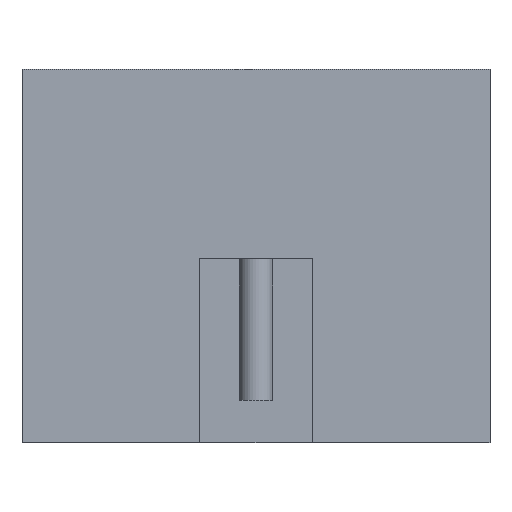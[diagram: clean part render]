
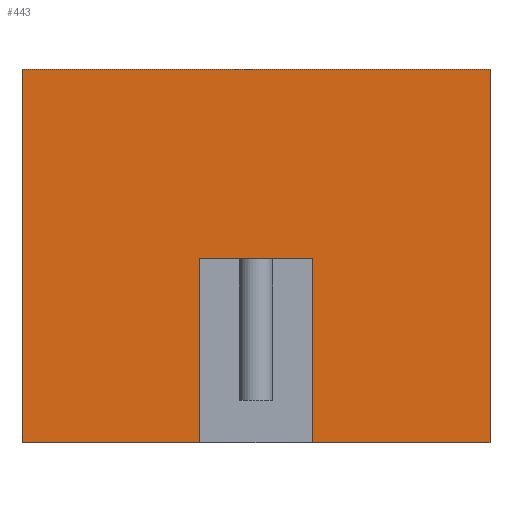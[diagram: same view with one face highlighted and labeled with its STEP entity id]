
A CAD part, top view. The second image highlights one B-rep face of the part: STEP entity #443.
In plain terms, the highlighted planar face has unit normal (0, 0, 1).
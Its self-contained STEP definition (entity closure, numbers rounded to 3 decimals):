
#54 = VERTEX_POINT('',#55);
#55 = CARTESIAN_POINT('',(-2.45,-6.6,4.9));
#62 = PLANE('',#63);
#63 = AXIS2_PLACEMENT_3D('',#64,#65,#66);
#64 = CARTESIAN_POINT('',(-2.45,-6.6,0.));
#65 = DIRECTION('',(1.,0.,0.));
#66 = DIRECTION('',(0.,0.,1.));
#74 = PLANE('',#75);
#75 = AXIS2_PLACEMENT_3D('',#76,#77,#78);
#76 = CARTESIAN_POINT('',(-2.45,-6.6,0.));
#77 = DIRECTION('',(0.,1.,0.));
#78 = DIRECTION('',(0.,0.,1.));
#115 = VERTEX_POINT('',#116);
#116 = CARTESIAN_POINT('',(-2.45,1.3,4.9));
#130 = PLANE('',#131);
#131 = AXIS2_PLACEMENT_3D('',#132,#133,#134);
#132 = CARTESIAN_POINT('',(-2.45,1.3,0.));
#133 = DIRECTION('',(0.,1.,0.));
#134 = DIRECTION('',(0.,0.,1.));
#142 = EDGE_CURVE('',#54,#115,#143,.T.);
#143 = SURFACE_CURVE('',#144,(#148,#155),.PCURVE_S1.);
#144 = LINE('',#145,#146);
#145 = CARTESIAN_POINT('',(-2.45,-6.6,4.9));
#146 = VECTOR('',#147,1.);
#147 = DIRECTION('',(0.,1.,0.));
#148 = PCURVE('',#62,#149);
#149 = DEFINITIONAL_REPRESENTATION('',(#150),#154);
#150 = LINE('',#151,#152);
#151 = CARTESIAN_POINT('',(4.9,0.));
#152 = VECTOR('',#153,1.);
#153 = DIRECTION('',(0.,-1.));
#154 = ( GEOMETRIC_REPRESENTATION_CONTEXT(2) 
PARAMETRIC_REPRESENTATION_CONTEXT() REPRESENTATION_CONTEXT('2D SPACE',''
  ) );
#155 = PCURVE('',#156,#161);
#156 = PLANE('',#157);
#157 = AXIS2_PLACEMENT_3D('',#158,#159,#160);
#158 = CARTESIAN_POINT('',(-2.45,-6.6,4.9));
#159 = DIRECTION('',(0.,0.,1.));
#160 = DIRECTION('',(1.,0.,0.));
#161 = DEFINITIONAL_REPRESENTATION('',(#162),#166);
#162 = LINE('',#163,#164);
#163 = CARTESIAN_POINT('',(0.,0.));
#164 = VECTOR('',#165,1.);
#165 = DIRECTION('',(0.,1.));
#166 = ( GEOMETRIC_REPRESENTATION_CONTEXT(2) 
PARAMETRIC_REPRESENTATION_CONTEXT() REPRESENTATION_CONTEXT('2D SPACE',''
  ) );
#174 = VERTEX_POINT('',#175);
#175 = CARTESIAN_POINT('',(7.45,-6.6,4.9));
#189 = PLANE('',#190);
#190 = AXIS2_PLACEMENT_3D('',#191,#192,#193);
#191 = CARTESIAN_POINT('',(7.45,-6.6,0.));
#192 = DIRECTION('',(1.,0.,0.));
#193 = DIRECTION('',(0.,0.,1.));
#223 = EDGE_CURVE('',#54,#224,#226,.T.);
#224 = VERTEX_POINT('',#225);
#225 = CARTESIAN_POINT('',(1.3,-6.6,4.9));
#226 = SURFACE_CURVE('',#227,(#231,#238),.PCURVE_S1.);
#227 = LINE('',#228,#229);
#228 = CARTESIAN_POINT('',(-2.45,-6.6,4.9));
#229 = VECTOR('',#230,1.);
#230 = DIRECTION('',(1.,0.,0.));
#231 = PCURVE('',#74,#232);
#232 = DEFINITIONAL_REPRESENTATION('',(#233),#237);
#233 = LINE('',#234,#235);
#234 = CARTESIAN_POINT('',(4.9,0.));
#235 = VECTOR('',#236,1.);
#236 = DIRECTION('',(0.,1.));
#237 = ( GEOMETRIC_REPRESENTATION_CONTEXT(2) 
PARAMETRIC_REPRESENTATION_CONTEXT() REPRESENTATION_CONTEXT('2D SPACE',''
  ) );
#238 = PCURVE('',#156,#239);
#239 = DEFINITIONAL_REPRESENTATION('',(#240),#244);
#240 = LINE('',#241,#242);
#241 = CARTESIAN_POINT('',(0.,0.));
#242 = VECTOR('',#243,1.);
#243 = DIRECTION('',(1.,0.));
#244 = ( GEOMETRIC_REPRESENTATION_CONTEXT(2) 
PARAMETRIC_REPRESENTATION_CONTEXT() REPRESENTATION_CONTEXT('2D SPACE',''
  ) );
#261 = PLANE('',#262);
#262 = AXIS2_PLACEMENT_3D('',#263,#264,#265);
#263 = CARTESIAN_POINT('',(1.3,-6.9,4.25));
#264 = DIRECTION('',(1.,0.,0.));
#265 = DIRECTION('',(0.,0.,1.));
#398 = VERTEX_POINT('',#399);
#399 = CARTESIAN_POINT('',(3.7,-6.6,4.9));
#412 = PLANE('',#413);
#413 = AXIS2_PLACEMENT_3D('',#414,#415,#416);
#414 = CARTESIAN_POINT('',(3.7,-6.9,4.25));
#415 = DIRECTION('',(1.,0.,0.));
#416 = DIRECTION('',(0.,0.,1.));
#423 = EDGE_CURVE('',#398,#174,#424,.T.);
#424 = SURFACE_CURVE('',#425,(#429,#436),.PCURVE_S1.);
#425 = LINE('',#426,#427);
#426 = CARTESIAN_POINT('',(-2.45,-6.6,4.9));
#427 = VECTOR('',#428,1.);
#428 = DIRECTION('',(1.,0.,0.));
#429 = PCURVE('',#74,#430);
#430 = DEFINITIONAL_REPRESENTATION('',(#431),#435);
#431 = LINE('',#432,#433);
#432 = CARTESIAN_POINT('',(4.9,0.));
#433 = VECTOR('',#434,1.);
#434 = DIRECTION('',(0.,1.));
#435 = ( GEOMETRIC_REPRESENTATION_CONTEXT(2) 
PARAMETRIC_REPRESENTATION_CONTEXT() REPRESENTATION_CONTEXT('2D SPACE',''
  ) );
#436 = PCURVE('',#156,#437);
#437 = DEFINITIONAL_REPRESENTATION('',(#438),#442);
#438 = LINE('',#439,#440);
#439 = CARTESIAN_POINT('',(0.,0.));
#440 = VECTOR('',#441,1.);
#441 = DIRECTION('',(1.,0.));
#442 = ( GEOMETRIC_REPRESENTATION_CONTEXT(2) 
PARAMETRIC_REPRESENTATION_CONTEXT() REPRESENTATION_CONTEXT('2D SPACE',''
  ) );
#443 = ADVANCED_FACE('',(#444),#156,.T.);
#444 = FACE_BOUND('',#445,.T.);
#445 = EDGE_LOOP('',(#446,#469,#470,#471,#492,#518,#537,#538));
#446 = ORIENTED_EDGE('',*,*,#447,.F.);
#447 = EDGE_CURVE('',#115,#448,#450,.T.);
#448 = VERTEX_POINT('',#449);
#449 = CARTESIAN_POINT('',(7.45,1.3,4.9));
#450 = SURFACE_CURVE('',#451,(#455,#462),.PCURVE_S1.);
#451 = LINE('',#452,#453);
#452 = CARTESIAN_POINT('',(-2.45,1.3,4.9));
#453 = VECTOR('',#454,1.);
#454 = DIRECTION('',(1.,0.,0.));
#455 = PCURVE('',#156,#456);
#456 = DEFINITIONAL_REPRESENTATION('',(#457),#461);
#457 = LINE('',#458,#459);
#458 = CARTESIAN_POINT('',(0.,7.9));
#459 = VECTOR('',#460,1.);
#460 = DIRECTION('',(1.,0.));
#461 = ( GEOMETRIC_REPRESENTATION_CONTEXT(2) 
PARAMETRIC_REPRESENTATION_CONTEXT() REPRESENTATION_CONTEXT('2D SPACE',''
  ) );
#462 = PCURVE('',#130,#463);
#463 = DEFINITIONAL_REPRESENTATION('',(#464),#468);
#464 = LINE('',#465,#466);
#465 = CARTESIAN_POINT('',(4.9,0.));
#466 = VECTOR('',#467,1.);
#467 = DIRECTION('',(0.,1.));
#468 = ( GEOMETRIC_REPRESENTATION_CONTEXT(2) 
PARAMETRIC_REPRESENTATION_CONTEXT() REPRESENTATION_CONTEXT('2D SPACE',''
  ) );
#469 = ORIENTED_EDGE('',*,*,#142,.F.);
#470 = ORIENTED_EDGE('',*,*,#223,.T.);
#471 = ORIENTED_EDGE('',*,*,#472,.T.);
#472 = EDGE_CURVE('',#224,#473,#475,.T.);
#473 = VERTEX_POINT('',#474);
#474 = CARTESIAN_POINT('',(1.3,-2.7,4.9));
#475 = SURFACE_CURVE('',#476,(#480,#486),.PCURVE_S1.);
#476 = LINE('',#477,#478);
#477 = CARTESIAN_POINT('',(1.3,-6.75,4.9));
#478 = VECTOR('',#479,1.);
#479 = DIRECTION('',(0.,1.,0.));
#480 = PCURVE('',#156,#481);
#481 = DEFINITIONAL_REPRESENTATION('',(#482),#485);
#482 = B_SPLINE_CURVE_WITH_KNOTS('',1,(#483,#484),.UNSPECIFIED.,.F.,.F.,
  (2,2),(0.15,4.05),.PIECEWISE_BEZIER_KNOTS.);
#483 = CARTESIAN_POINT('',(3.75,0.));
#484 = CARTESIAN_POINT('',(3.75,3.9));
#485 = ( GEOMETRIC_REPRESENTATION_CONTEXT(2) 
PARAMETRIC_REPRESENTATION_CONTEXT() REPRESENTATION_CONTEXT('2D SPACE',''
  ) );
#486 = PCURVE('',#261,#487);
#487 = DEFINITIONAL_REPRESENTATION('',(#488),#491);
#488 = B_SPLINE_CURVE_WITH_KNOTS('',1,(#489,#490),.UNSPECIFIED.,.F.,.F.,
  (2,2),(0.15,4.05),.PIECEWISE_BEZIER_KNOTS.);
#489 = CARTESIAN_POINT('',(0.65,-0.3));
#490 = CARTESIAN_POINT('',(0.65,-4.2));
#491 = ( GEOMETRIC_REPRESENTATION_CONTEXT(2) 
PARAMETRIC_REPRESENTATION_CONTEXT() REPRESENTATION_CONTEXT('2D SPACE',''
  ) );
#492 = ORIENTED_EDGE('',*,*,#493,.F.);
#493 = EDGE_CURVE('',#494,#473,#496,.T.);
#494 = VERTEX_POINT('',#495);
#495 = CARTESIAN_POINT('',(3.7,-2.7,4.9));
#496 = SURFACE_CURVE('',#497,(#501,#507),.PCURVE_S1.);
#497 = LINE('',#498,#499);
#498 = CARTESIAN_POINT('',(-0.575,-2.7,4.9));
#499 = VECTOR('',#500,1.);
#500 = DIRECTION('',(-1.,0.,0.));
#501 = PCURVE('',#156,#502);
#502 = DEFINITIONAL_REPRESENTATION('',(#503),#506);
#503 = B_SPLINE_CURVE_WITH_KNOTS('',1,(#504,#505),.UNSPECIFIED.,.F.,.F.,
  (2,2),(-4.275,-1.875),.PIECEWISE_BEZIER_KNOTS.);
#504 = CARTESIAN_POINT('',(6.15,3.9));
#505 = CARTESIAN_POINT('',(3.75,3.9));
#506 = ( GEOMETRIC_REPRESENTATION_CONTEXT(2) 
PARAMETRIC_REPRESENTATION_CONTEXT() REPRESENTATION_CONTEXT('2D SPACE',''
  ) );
#507 = PCURVE('',#508,#513);
#508 = PLANE('',#509);
#509 = AXIS2_PLACEMENT_3D('',#510,#511,#512);
#510 = CARTESIAN_POINT('',(1.3,-2.7,4.25));
#511 = DIRECTION('',(0.,1.,0.));
#512 = DIRECTION('',(0.,0.,1.));
#513 = DEFINITIONAL_REPRESENTATION('',(#514),#517);
#514 = B_SPLINE_CURVE_WITH_KNOTS('',1,(#515,#516),.UNSPECIFIED.,.F.,.F.,
  (2,2),(-4.275,-1.875),.PIECEWISE_BEZIER_KNOTS.);
#515 = CARTESIAN_POINT('',(0.65,2.4));
#516 = CARTESIAN_POINT('',(0.65,0.));
#517 = ( GEOMETRIC_REPRESENTATION_CONTEXT(2) 
PARAMETRIC_REPRESENTATION_CONTEXT() REPRESENTATION_CONTEXT('2D SPACE',''
  ) );
#518 = ORIENTED_EDGE('',*,*,#519,.F.);
#519 = EDGE_CURVE('',#398,#494,#520,.T.);
#520 = SURFACE_CURVE('',#521,(#525,#531),.PCURVE_S1.);
#521 = LINE('',#522,#523);
#522 = CARTESIAN_POINT('',(3.7,-6.75,4.9));
#523 = VECTOR('',#524,1.);
#524 = DIRECTION('',(0.,1.,0.));
#525 = PCURVE('',#156,#526);
#526 = DEFINITIONAL_REPRESENTATION('',(#527),#530);
#527 = B_SPLINE_CURVE_WITH_KNOTS('',1,(#528,#529),.UNSPECIFIED.,.F.,.F.,
  (2,2),(0.15,4.05),.PIECEWISE_BEZIER_KNOTS.);
#528 = CARTESIAN_POINT('',(6.15,0.));
#529 = CARTESIAN_POINT('',(6.15,3.9));
#530 = ( GEOMETRIC_REPRESENTATION_CONTEXT(2) 
PARAMETRIC_REPRESENTATION_CONTEXT() REPRESENTATION_CONTEXT('2D SPACE',''
  ) );
#531 = PCURVE('',#412,#532);
#532 = DEFINITIONAL_REPRESENTATION('',(#533),#536);
#533 = B_SPLINE_CURVE_WITH_KNOTS('',1,(#534,#535),.UNSPECIFIED.,.F.,.F.,
  (2,2),(0.15,4.05),.PIECEWISE_BEZIER_KNOTS.);
#534 = CARTESIAN_POINT('',(0.65,-0.3));
#535 = CARTESIAN_POINT('',(0.65,-4.2));
#536 = ( GEOMETRIC_REPRESENTATION_CONTEXT(2) 
PARAMETRIC_REPRESENTATION_CONTEXT() REPRESENTATION_CONTEXT('2D SPACE',''
  ) );
#537 = ORIENTED_EDGE('',*,*,#423,.T.);
#538 = ORIENTED_EDGE('',*,*,#539,.T.);
#539 = EDGE_CURVE('',#174,#448,#540,.T.);
#540 = SURFACE_CURVE('',#541,(#545,#552),.PCURVE_S1.);
#541 = LINE('',#542,#543);
#542 = CARTESIAN_POINT('',(7.45,-6.6,4.9));
#543 = VECTOR('',#544,1.);
#544 = DIRECTION('',(0.,1.,0.));
#545 = PCURVE('',#156,#546);
#546 = DEFINITIONAL_REPRESENTATION('',(#547),#551);
#547 = LINE('',#548,#549);
#548 = CARTESIAN_POINT('',(9.9,0.));
#549 = VECTOR('',#550,1.);
#550 = DIRECTION('',(0.,1.));
#551 = ( GEOMETRIC_REPRESENTATION_CONTEXT(2) 
PARAMETRIC_REPRESENTATION_CONTEXT() REPRESENTATION_CONTEXT('2D SPACE',''
  ) );
#552 = PCURVE('',#189,#553);
#553 = DEFINITIONAL_REPRESENTATION('',(#554),#558);
#554 = LINE('',#555,#556);
#555 = CARTESIAN_POINT('',(4.9,0.));
#556 = VECTOR('',#557,1.);
#557 = DIRECTION('',(0.,-1.));
#558 = ( GEOMETRIC_REPRESENTATION_CONTEXT(2) 
PARAMETRIC_REPRESENTATION_CONTEXT() REPRESENTATION_CONTEXT('2D SPACE',''
  ) );
